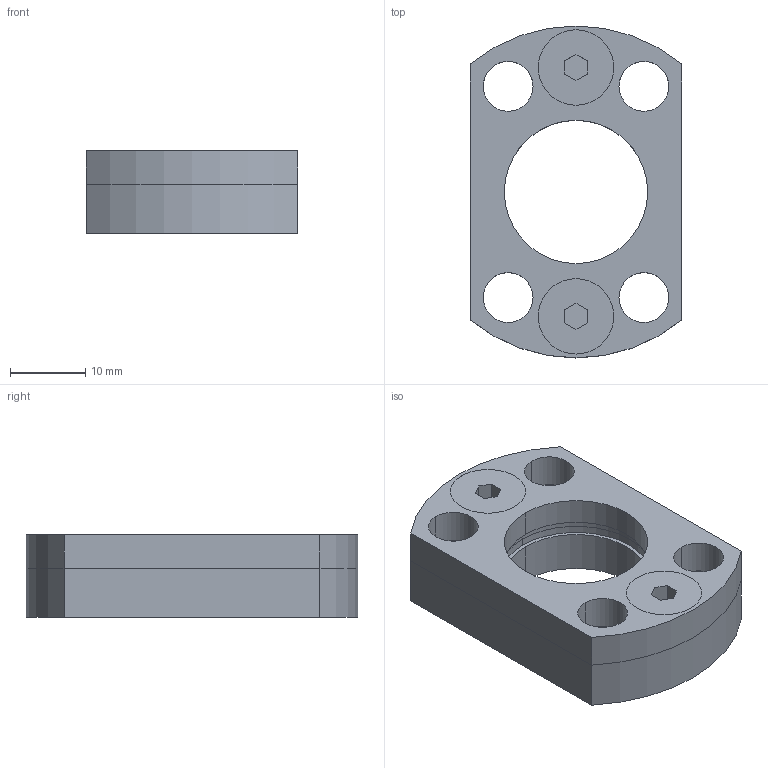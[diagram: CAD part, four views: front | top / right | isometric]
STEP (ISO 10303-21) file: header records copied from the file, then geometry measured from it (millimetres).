
FILE_DESCRIPTION(/* description */ (''),/* implementation_level */ '2;1');
FILE_NAME(/* name */ '3d_fm-19_03754_r00.stp',/* time_stamp */ '2011-01-10T14:15:37+09:00',/* author */ ('MISUMI'),/* organization */ (''),/* preprocessor_version */ 'ST-DEVELOPER v11',/* originating_system */ 'UGS - NX 5.0',/* authorisation */ '');
FILE_SCHEMA (('CONFIG_CONTROL_DESIGN'));
Length unit declared in the file: millimetre
Products named in the file (1): 3d_fm-19_03754_r00
Bounding box: 28 x 44 x 11 mm (x, y, z)
Volume: 7796.8 mm3; surface area: 6710.6 mm2
Topology: 4 solids, 4 shells, 80 faces, 192 edges, 124 vertices
Faces by surface type: cylinder 40, plane 28, cone 12
Entity records: 2488 total; most frequent: DIRECTION 446, CARTESIAN_POINT 397, ORIENTED_EDGE 384, EDGE_CURVE 192, AXIS2_PLACEMENT_3D 173, VERTEX_POINT 124, EDGE_LOOP 112, LINE 100
